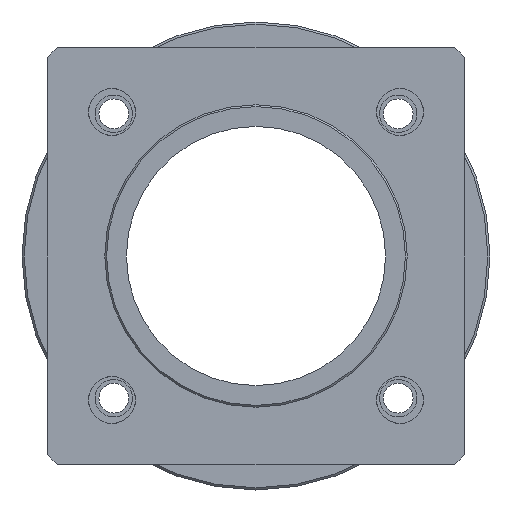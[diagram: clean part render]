
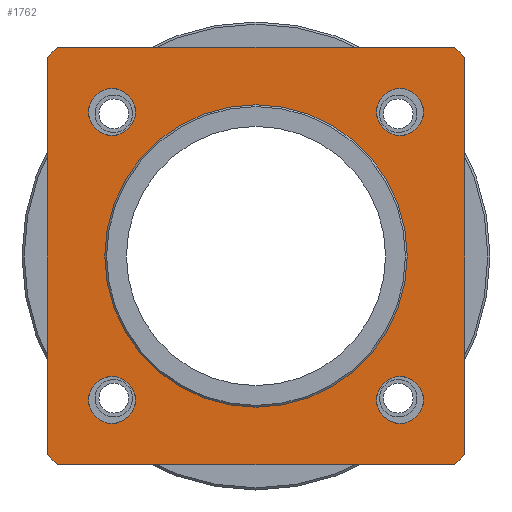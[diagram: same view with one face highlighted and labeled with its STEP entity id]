
A CAD part, left-side view. The second image highlights one B-rep face of the part: STEP entity #1762.
In plain terms, the highlighted planar face has unit normal (-1, 0, 0) as drawn and (1, 0, 0) by its records, which use the part's own axes.
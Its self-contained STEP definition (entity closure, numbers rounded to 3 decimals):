
#1433=CARTESIAN_POINT('',(80.0,21.0,0.0));
#1434=VERTEX_POINT('',#1433);
#1435=CARTESIAN_POINT('',(80.0,0.0,0.0));
#1436=DIRECTION('',(1.0,0.0,0.0));
#1437=DIRECTION('',(0.0,1.0,0.0));
#1438=AXIS2_PLACEMENT_3D('',#1435,#1436,#1437);
#1439=CIRCLE('',#1438,21.0);
#1440=EDGE_CURVE('',#1434,#1434,#1439,.T.);
#1476=CARTESIAN_POINT('',(80.0,-20.,16.75));
#1477=VERTEX_POINT('',#1476);
#1478=CARTESIAN_POINT('',(80.0,-20.,20.));
#1479=DIRECTION('',(-1.0,0.0,0.0));
#1480=DIRECTION('',(0.0,0.0,-1.0));
#1481=AXIS2_PLACEMENT_3D('',#1478,#1479,#1480);
#1482=CIRCLE('',#1481,3.25);
#1483=EDGE_CURVE('',#1477,#1477,#1482,.T.);
#1496=CARTESIAN_POINT('',(80.0,-20.,-23.25));
#1497=VERTEX_POINT('',#1496);
#1498=CARTESIAN_POINT('',(80.0,-20.,-20.));
#1499=DIRECTION('',(-1.0,0.0,0.0));
#1500=DIRECTION('',(0.0,0.0,-1.0));
#1501=AXIS2_PLACEMENT_3D('',#1498,#1499,#1500);
#1502=CIRCLE('',#1501,3.25);
#1503=EDGE_CURVE('',#1497,#1497,#1502,.T.);
#1516=CARTESIAN_POINT('',(80.0,20.,-23.25));
#1517=VERTEX_POINT('',#1516);
#1518=CARTESIAN_POINT('',(80.0,20.,-20.));
#1519=DIRECTION('',(-1.0,0.0,0.0));
#1520=DIRECTION('',(0.0,0.0,-1.0));
#1521=AXIS2_PLACEMENT_3D('',#1518,#1519,#1520);
#1522=CIRCLE('',#1521,3.25);
#1523=EDGE_CURVE('',#1517,#1517,#1522,.T.);
#1536=CARTESIAN_POINT('',(80.0,20.,16.75));
#1537=VERTEX_POINT('',#1536);
#1538=CARTESIAN_POINT('',(80.0,20.,20.));
#1539=DIRECTION('',(-1.0,0.0,0.0));
#1540=DIRECTION('',(0.0,0.0,-1.0));
#1541=AXIS2_PLACEMENT_3D('',#1538,#1539,#1540);
#1542=CIRCLE('',#1541,3.25);
#1543=EDGE_CURVE('',#1537,#1537,#1542,.T.);
#1554=CARTESIAN_POINT('',(80.0,-29.,-27.55));
#1555=VERTEX_POINT('',#1554);
#1562=CARTESIAN_POINT('',(80.0,-29.,27.55));
#1563=VERTEX_POINT('',#1562);
#1564=CARTESIAN_POINT('',(80.0,-29.,27.55));
#1565=DIRECTION('',(0.0,0.0,-1.0));
#1566=VECTOR('',#1565,55.1);
#1567=LINE('',#1564,#1566);
#1568=EDGE_CURVE('',#1563,#1555,#1567,.T.);
#1585=CARTESIAN_POINT('',(80.0,-27.55,29.));
#1586=VERTEX_POINT('',#1585);
#1593=CARTESIAN_POINT('',(80.0,27.55,29.));
#1594=VERTEX_POINT('',#1593);
#1595=CARTESIAN_POINT('',(80.0,27.55,29.));
#1596=DIRECTION('',(0.0,-1.0,0.0));
#1597=VECTOR('',#1596,55.1);
#1598=LINE('',#1595,#1597);
#1599=EDGE_CURVE('',#1594,#1586,#1598,.T.);
#1616=CARTESIAN_POINT('',(80.0,27.55,-29.));
#1617=VERTEX_POINT('',#1616);
#1624=CARTESIAN_POINT('',(80.0,-27.55,-29.));
#1625=VERTEX_POINT('',#1624);
#1626=CARTESIAN_POINT('',(80.0,-27.55,-29.));
#1627=DIRECTION('',(0.0,1.0,0.0));
#1628=VECTOR('',#1627,55.1);
#1629=LINE('',#1626,#1628);
#1630=EDGE_CURVE('',#1625,#1617,#1629,.T.);
#1647=CARTESIAN_POINT('',(80.0,29.,27.55));
#1648=VERTEX_POINT('',#1647);
#1655=CARTESIAN_POINT('',(80.0,29.,-27.55));
#1656=VERTEX_POINT('',#1655);
#1657=CARTESIAN_POINT('',(80.0,29.,-27.55));
#1658=DIRECTION('',(0.0,0.0,1.0));
#1659=VECTOR('',#1658,55.1);
#1660=LINE('',#1657,#1659);
#1661=EDGE_CURVE('',#1656,#1648,#1660,.T.);
#1680=CARTESIAN_POINT('',(80.,0.0,0.0));
#1681=DIRECTION('',(1.0,0.0,0.0));
#1682=DIRECTION('',(0.0,1.0,0.0));
#1683=AXIS2_PLACEMENT_3D('',#1680,#1681,#1682);
#1684=CIRCLE('',#1683,40.);
#1685=EDGE_CURVE('',#1617,#1656,#1684,.T.);
#1696=CARTESIAN_POINT('',(80.,0.0,0.0));
#1697=DIRECTION('',(1.0,0.0,0.0));
#1698=DIRECTION('',(0.0,1.0,0.0));
#1699=AXIS2_PLACEMENT_3D('',#1696,#1697,#1698);
#1700=CIRCLE('',#1699,40.);
#1701=EDGE_CURVE('',#1648,#1594,#1700,.T.);
#1716=CARTESIAN_POINT('',(80.,0.0,0.0));
#1717=DIRECTION('',(1.0,0.0,0.0));
#1718=DIRECTION('',(0.0,1.0,0.0));
#1719=AXIS2_PLACEMENT_3D('',#1716,#1717,#1718);
#1720=CIRCLE('',#1719,40.);
#1721=EDGE_CURVE('',#1555,#1625,#1720,.T.);
#1726=CARTESIAN_POINT('',(80.0,19.5,0.0));
#1727=DIRECTION('',(1.0,0.0,0.0));
#1728=DIRECTION('',(0.0,0.0,-1.0));
#1729=AXIS2_PLACEMENT_3D('',#1726,#1727,#1728);
#1730=PLANE('',#1729);
#1731=ORIENTED_EDGE('',*,*,#1568,.T.);
#1732=ORIENTED_EDGE('',*,*,#1721,.T.);
#1733=ORIENTED_EDGE('',*,*,#1630,.T.);
#1734=ORIENTED_EDGE('',*,*,#1685,.T.);
#1735=ORIENTED_EDGE('',*,*,#1661,.T.);
#1736=ORIENTED_EDGE('',*,*,#1701,.T.);
#1737=ORIENTED_EDGE('',*,*,#1599,.T.);
#1738=CARTESIAN_POINT('',(80.,0.0,0.0));
#1739=DIRECTION('',(1.0,0.0,0.0));
#1740=DIRECTION('',(0.0,1.0,0.0));
#1741=AXIS2_PLACEMENT_3D('',#1738,#1739,#1740);
#1742=CIRCLE('',#1741,40.);
#1743=EDGE_CURVE('',#1586,#1563,#1742,.T.);
#1744=ORIENTED_EDGE('',*,*,#1743,.T.);
#1745=EDGE_LOOP('',(#1731,#1732,#1733,#1734,#1735,#1736,#1737,#1744));
#1746=FACE_OUTER_BOUND('',#1745,.T.);
#1747=ORIENTED_EDGE('',*,*,#1483,.T.);
#1748=EDGE_LOOP('',(#1747));
#1749=FACE_BOUND('',#1748,.T.);
#1750=ORIENTED_EDGE('',*,*,#1503,.T.);
#1751=EDGE_LOOP('',(#1750));
#1752=FACE_BOUND('',#1751,.T.);
#1753=ORIENTED_EDGE('',*,*,#1523,.T.);
#1754=EDGE_LOOP('',(#1753));
#1755=FACE_BOUND('',#1754,.T.);
#1756=ORIENTED_EDGE('',*,*,#1543,.T.);
#1757=EDGE_LOOP('',(#1756));
#1758=FACE_BOUND('',#1757,.T.);
#1759=ORIENTED_EDGE('',*,*,#1440,.F.);
#1760=EDGE_LOOP('',(#1759));
#1761=FACE_BOUND('',#1760,.T.);
#1762=ADVANCED_FACE('',(#1746,#1749,#1752,#1755,#1758,#1761),#1730,.T.);
